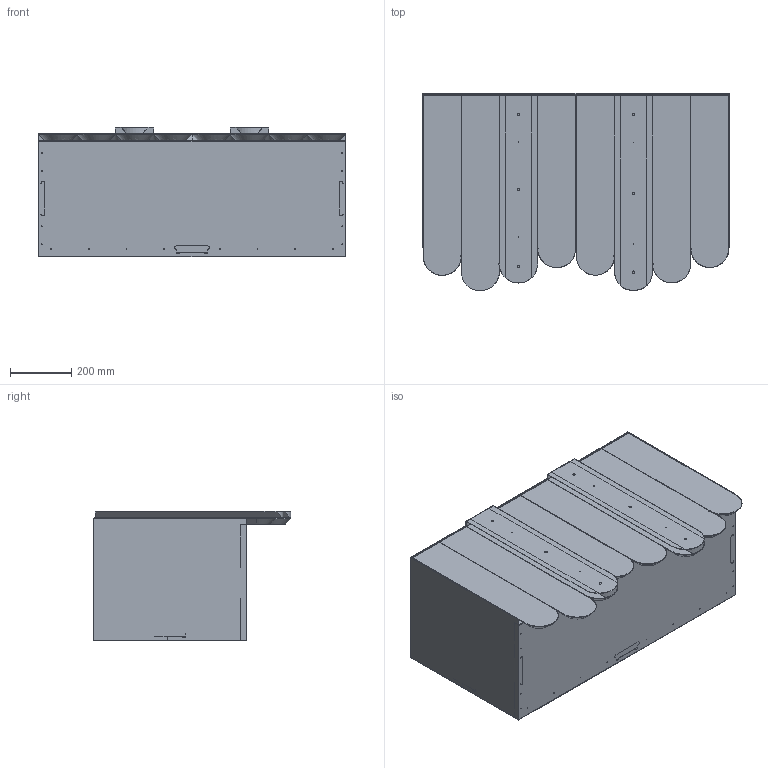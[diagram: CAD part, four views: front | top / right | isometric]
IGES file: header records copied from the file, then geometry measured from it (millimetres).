
Start section: SolidWorks IGES file using analytic representation for surfaces
Global section: file name: \\UTENTI\Dati Utenti\Tecnico\DC\2D - 3D per sito\3D\DeCastelli-3D-Xilo Console 100.igs; native system: SolidWorks 2022; preprocessor: SolidWorks 2022; author: filippo; date: 240724.135724; units: millimetre
Bounding box: 1000 x 642.25 x 421 mm (x, y, z)
Surface area: 8122157.1 mm2 (no closed solid volume)
Topology: 0 solids, 0 shells, 313 faces, 8177 edges, 8177 vertices
Faces by surface type: bspline 165, revolution 148
